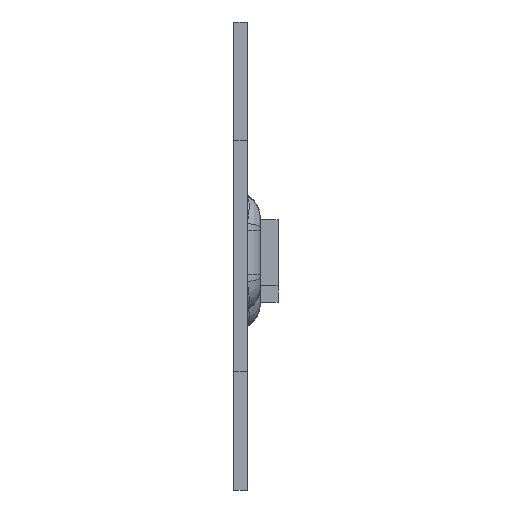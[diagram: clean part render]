
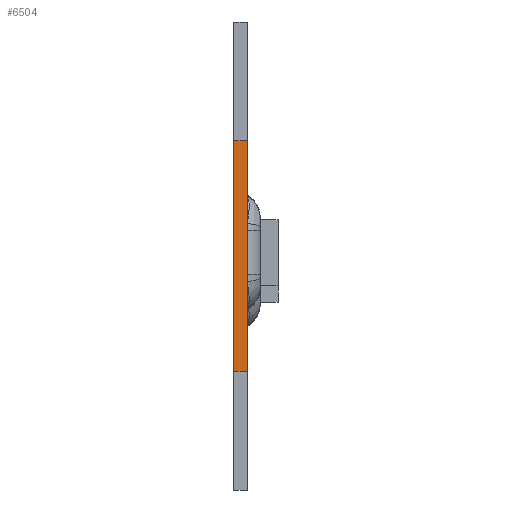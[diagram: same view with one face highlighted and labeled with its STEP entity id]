
A CAD part, left-side view. The second image highlights one B-rep face of the part: STEP entity #6504.
In plain terms, the highlighted planar face has unit normal (-1, 0, 0).
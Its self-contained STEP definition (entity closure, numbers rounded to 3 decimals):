
#600=DIRECTION('',(0.,0.,1.));
#601=VECTOR('',#600,35.);
#602=CARTESIAN_POINT('',(-128.,0.,-17.5));
#603=LINE('',#602,#601);
#1035=DIRECTION('',(0.,0.,1.));
#1036=VECTOR('',#1035,35.);
#1037=CARTESIAN_POINT('',(-128.,-2.,-17.5));
#1038=LINE('',#1037,#1036);
#1998=DIRECTION('',(0.,-1.,0.));
#1999=VECTOR('',#1998,2.);
#2000=CARTESIAN_POINT('',(-128.,0.,-17.5));
#2001=LINE('',#2000,#1999);
#2002=DIRECTION('',(0.,-1.,0.));
#2003=VECTOR('',#2002,2.);
#2004=CARTESIAN_POINT('',(-128.,0.,17.5));
#2005=LINE('',#2004,#2003);
#3230=CARTESIAN_POINT('',(-128.,0.,-17.5));
#3232=VERTEX_POINT('',#3230);
#3233=CARTESIAN_POINT('',(-128.,0.,17.5));
#3234=VERTEX_POINT('',#3233);
#3238=CARTESIAN_POINT('',(-128.,-2.,-17.5));
#3240=VERTEX_POINT('',#3238);
#3241=CARTESIAN_POINT('',(-128.,-2.,17.5));
#3242=VERTEX_POINT('',#3241);
#6492=CARTESIAN_POINT('',(-128.,-1.,0.));
#6493=DIRECTION('',(-1.,0.,0.));
#6494=DIRECTION('',(0.,0.,1.));
#6495=AXIS2_PLACEMENT_3D('',#6492,#6493,#6494);
#6496=PLANE('',#6495);
#6497=ORIENTED_EDGE('',*,*,#3815,.T.);
#6499=ORIENTED_EDGE('',*,*,#6498,.T.);
#6500=ORIENTED_EDGE('',*,*,#4045,.F.);
#6501=ORIENTED_EDGE('',*,*,#6484,.F.);
#6502=EDGE_LOOP('',(#6497,#6499,#6500,#6501));
#6503=FACE_OUTER_BOUND('',#6502,.F.);
#6504=ADVANCED_FACE('',(#6503),#6496,.T.);
#3815=EDGE_CURVE('',#3232,#3234,#603,.T.);
#4045=EDGE_CURVE('',#3240,#3242,#1038,.T.);
#6484=EDGE_CURVE('',#3232,#3240,#2001,.T.);
#6498=EDGE_CURVE('',#3234,#3242,#2005,.T.);
